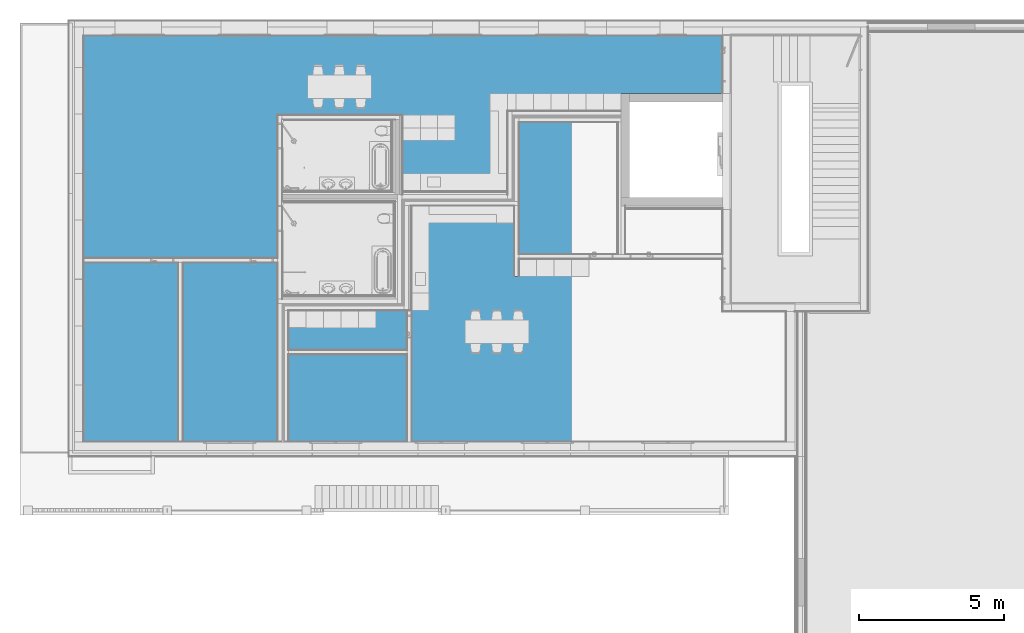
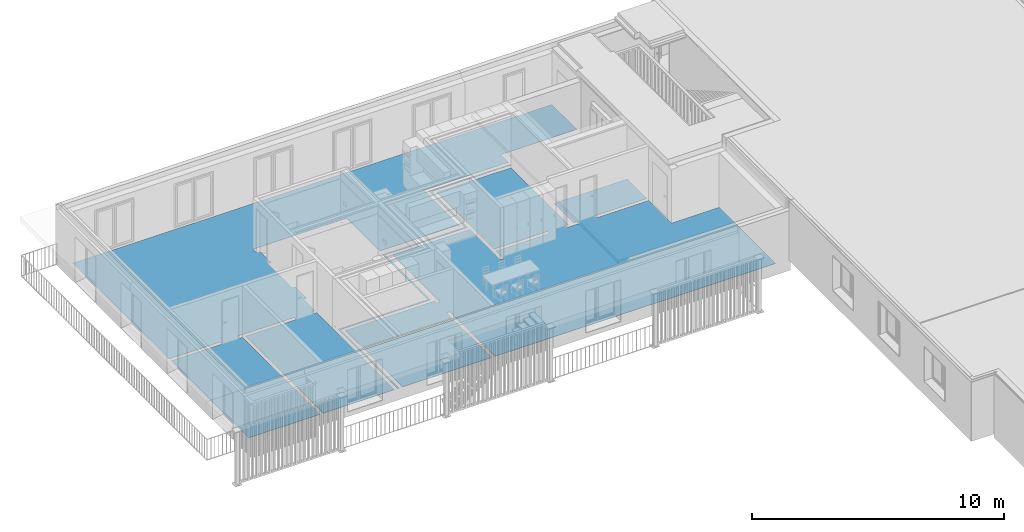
# One storey, part 9 of 34: 1 building element part, 1 element without a shape of its own.
"""IFC4 building model written with IfcOpenShell, lengths in millimetres."""

from ifc_helpers import new_model, entity, si_unit, converted_unit, derived_unit, direction, frame, origin_with_axes, place, context, subcontext, project, spatial, polygons, material, type_object, element, aggregate, save


model = new_model("IFC4")

# Units and contexts
model_context = context("Model", 3, precision=0.01, world=origin_with_axes(), true_north=direction((0.0, 1.0)))
body_context = subcontext(model_context, "Body", "Model", "MODEL_VIEW")
ifc_project = project(units=[si_unit("LENGTHUNIT", "METRE", prefix="MILLI"), si_unit("AREAUNIT", "SQUARE_METRE"), si_unit("VOLUMEUNIT", "CUBIC_METRE"), converted_unit("PLANEANGLEUNIT", "DEGREE", entity("IfcPlaneAngleMeasure", 0.0174532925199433), si_unit("PLANEANGLEUNIT", "RADIAN"), dimensions=[0, 0, 0, 0, 0, 0, 0]), converted_unit("TIMEUNIT", "Year", entity("IfcTimeMeasure", 31557600.0), si_unit("TIMEUNIT", "SECOND"), dimensions=[0, 0, 1, 0, 0, 0, 0]), si_unit("MASSUNIT", "GRAM", prefix="KILO"), si_unit("THERMODYNAMICTEMPERATUREUNIT", "DEGREE_CELSIUS"), si_unit("LUMINOUSINTENSITYUNIT", "LUMEN"), si_unit("ENERGYUNIT", "JOULE", prefix="MEGA"), derived_unit("THERMALCONDUCTANCEUNIT", [(si_unit("POWERUNIT", "WATT"), 1), (si_unit("LENGTHUNIT", "METRE"), -1), (si_unit("THERMODYNAMICTEMPERATUREUNIT", "KELVIN"), -1)]), derived_unit("SPECIFICHEATCAPACITYUNIT", [(si_unit("ENERGYUNIT", "JOULE"), 1), (si_unit("MASSUNIT", "GRAM", prefix="KILO"), -1), (si_unit("THERMODYNAMICTEMPERATUREUNIT", "KELVIN"), -1)]), derived_unit("MASSDENSITYUNIT", [(si_unit("MASSUNIT", "GRAM", prefix="KILO"), 1), (si_unit("VOLUMEUNIT", "CUBIC_METRE"), -1)])], contexts=[model_context])

# Site, building, storey
site_placement = place(None, origin_with_axes())
site = spatial("IfcSite", under=ifc_project, at=site_placement, Name="Gelände", CompositionType="ELEMENT")
building_placement = place(site_placement, origin_with_axes())
building = spatial("IfcBuilding", under=site, at=building_placement, Name="Gebäude", CompositionType="ELEMENT")
storey_placement = place(building_placement, frame((0.0, 0.0, 2900.0), z_axis=(0.0, 0.0, 1.0), x_axis=(1.0, 0.0, 0.0)))
storey = spatial("IfcBuildingStorey", under=building, at=storey_placement, Name="1.OG", CompositionType="ELEMENT", Elevation=2900.0)

# Covering, building element part
covering_type = type_object("IfcCoveringType", Name="Bodenaufbau Typ 01 150", PredefinedType="NOTDEFINED")
covering_placement = place(storey_placement, frame((-6561.004181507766, 37437.5972813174, 0.0), z_axis=(0.0, 0.0, 1.0), x_axis=(1.0, 0.0, 0.0)))
covering = element("IfcCovering", 1, at=covering_placement, inside=storey, type_object=covering_type, Name="Decke-007", PredefinedType="NOTDEFINED")
ifc_material = material(Name="Bodenbelag")
building_element_part_placement = place(covering_placement, origin_with_axes())
building_element_part = element("IfcBuildingElementPart", 2, at=building_element_part_placement, material=ifc_material, Name="Bodenbelag", PredefinedType="NOTDEFINED", context=body_context, shape_type="Tessellation", body=[
    polygons([(10621.77773059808, -5369.999999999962, 149.9999999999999), (10621.77773059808, -5359.999999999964, 149.9999999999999), (10611.77773059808, -5359.999999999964, 149.9999999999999), (10611.77773059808, -5369.999999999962, 149.9999999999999), (10621.77773059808, -5359.999999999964, 134.9999999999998), (10621.77773059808, -5369.999999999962, 134.9999999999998), (10611.77773059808, -5359.999999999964, 134.9999999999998), (10611.77773059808, -5369.999999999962, 134.9999999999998)], [[[1, 2, 3, 4]], [[5, 2, 1, 6]], [[2, 5, 7, 3]], [[3, 7, 8, 4]], [[6, 1, 4, 8]], [[5, 6, 8, 7]]], closed=True),
    polygons([(3419.999999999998, -7812.513021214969, 149.9999999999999), (3419.999999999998, -13980.00054054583, 149.9999999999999), (6683.999999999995, -13980.00054054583, 149.9999999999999), (6683.999999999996, -9223.223895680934, 149.9999999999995), (6683.999999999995, -9073.223895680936, 149.9999999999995), (6683.999999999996, -7812.513021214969, 149.9999999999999), (6533.999999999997, -7812.513021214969, 149.9999999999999), (6533.999999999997, -7662.513021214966, 149.9999999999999), (6683.999999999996, -7662.513021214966, 149.9999999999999), (6683.999999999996, -6734.99999999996, 149.9999999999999), (6843.999999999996, -6734.99999999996, 149.9999999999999), (6843.999999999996, -5844.99999999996, 149.9999999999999), (6683.999999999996, -5844.99999999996, 149.9999999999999), (6683.999999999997, -3898.533577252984, 149.9999999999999), (6843.999999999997, -3898.533577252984, 149.9999999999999), (6843.999999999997, -3008.533577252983, 149.9999999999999), (6683.999999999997, -3008.533577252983, 149.9999999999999), (6683.999999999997, -2743.533577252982, 149.9999999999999), (6833.999999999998, -2743.533577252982, 149.9999999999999), (10876.77773059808, -2743.533577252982, 149.9999999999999), (10876.77773059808, -2733.533577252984, 149.9999999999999), (10981.77773059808, -2733.533577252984, 149.9999999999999), (10981.77773059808, -5369.999999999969, 149.9999999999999), (14590.00162627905, -5369.999999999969, 149.9999999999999), (14590.00162627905, -5474.999999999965, 149.9999999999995), (14600.00162627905, -5474.999999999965, 149.9999999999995), (14600.00162627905, -2599.999999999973, 149.9999999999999), (14750.00162627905, -2599.999999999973, 149.9999999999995), (18490.00162627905, -2599.999999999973, 149.9999999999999), (18490.00162627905, -1989.999999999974, 149.9999999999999), (21980.00162627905, -1989.999999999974, 149.9999999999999), (21980.00162627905, 0.0, 149.9999999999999), (0.0, 0.0, 149.9999999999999), (0.0, -7662.51302121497, 149.9999999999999), (2309.999999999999, -7662.51302121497, 149.9999999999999), (2309.999999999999, -7812.513021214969, 149.9999999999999), (0.0, -7812.513021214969, 149.9999999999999), (0.0, -13980.00054054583, 149.9999999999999), (3269.999999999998, -13980.00054054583, 149.9999999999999), (3269.999999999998, -7812.513021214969, 149.9999999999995), (3110.0, -7812.513021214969, 149.9999999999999), (3110.0, -7662.51302121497, 149.9999999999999), (5733.999999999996, -7662.513021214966, 149.9999999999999), (5733.999999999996, -7812.513021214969, 149.9999999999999), (3419.999999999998, -7812.513021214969, 134.9999999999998), (3419.999999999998, -13980.00054054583, 135.0000000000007), (6683.999999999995, -13980.00054054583, 135.0000000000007), (6683.999999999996, -9223.223895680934, 134.9999999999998), (6683.999999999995, -9073.223895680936, 134.9999999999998), (6683.999999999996, -7812.513021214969, 134.9999999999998), (6533.999999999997, -7812.513021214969, 134.9999999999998), (6533.999999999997, -7662.513021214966, 134.9999999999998), (6683.999999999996, -7662.513021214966, 134.9999999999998), (6683.999999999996, -6734.99999999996, 134.9999999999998), (6843.999999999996, -6734.99999999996, 134.9999999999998), (6843.999999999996, -5844.99999999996, 134.9999999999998), (6683.999999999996, -5844.99999999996, 134.9999999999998), (6683.999999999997, -3898.533577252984, 134.9999999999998), (6843.999999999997, -3898.533577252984, 134.9999999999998), (6843.999999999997, -3008.533577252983, 134.9999999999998), (6683.999999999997, -3008.533577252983, 134.9999999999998), (6683.999999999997, -2743.533577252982, 134.9999999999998), (6833.999999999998, -2743.533577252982, 134.9999999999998), (10876.77773059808, -2743.533577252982, 134.9999999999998), (10876.77773059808, -2733.533577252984, 134.9999999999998), (10981.77773059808, -2733.533577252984, 134.9999999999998), (10981.77773059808, -5369.999999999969, 134.9999999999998), (14590.00162627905, -5369.999999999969, 134.9999999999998), (14590.00162627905, -5474.999999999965, 134.9999999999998), (14600.00162627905, -5474.999999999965, 134.9999999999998), (14600.00162627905, -2599.999999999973, 134.9999999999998), (14750.00162627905, -2599.999999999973, 134.9999999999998), (18490.00162627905, -2599.999999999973, 134.9999999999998), (18490.00162627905, -1989.999999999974, 134.9999999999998), (21980.00162627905, -1989.999999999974, 134.9999999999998), (21980.00162627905, 0.0, 134.9999999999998), (0.0, 0.0, 134.9999999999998), (0.0, -7662.51302121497, 134.9999999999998), (2309.999999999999, -7662.51302121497, 134.9999999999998), (2309.999999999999, -7812.513021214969, 134.9999999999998), (0.0, -7812.513021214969, 134.9999999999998), (0.0, -13980.00054054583, 134.9999999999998), (3269.999999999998, -13980.00054054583, 135.0000000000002), (3269.999999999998, -7812.513021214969, 134.9999999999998), (3110.0, -7812.513021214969, 134.9999999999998), (3110.0, -7662.51302121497, 134.9999999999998), (5733.999999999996, -7662.513021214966, 134.9999999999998), (5733.999999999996, -7812.513021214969, 134.9999999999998)], [[[1, 2, 3, 4, 5, 6, 7, 8, 9, 10, 11, 12, 13, 14, 15, 16, 17, 18, 19, 20, 21, 22, 23, 24, 25, 26, 27, 28, 29, 30, 31, 32, 33, 34, 35, 36, 37, 38, 39, 40, 41, 42, 43, 44]], [[2, 1, 45, 46]], [[2, 46, 47, 3]], [[48, 4, 3, 47]], [[4, 48, 49, 5]], [[5, 49, 50, 6]], [[6, 50, 51, 7]], [[8, 7, 51, 52]], [[53, 9, 8, 52]], [[10, 9, 53, 54]], [[11, 10, 54, 55]], [[11, 55, 56, 12]], [[57, 13, 12, 56]], [[14, 13, 57, 58]], [[15, 14, 58, 59]], [[15, 59, 60, 16]], [[61, 17, 16, 60]], [[18, 17, 61, 62]], [[63, 19, 18, 62]], [[64, 20, 19, 63]], [[21, 20, 64, 65]], [[66, 22, 21, 65]], [[23, 22, 66, 67]], [[23, 67, 68, 24]], [[24, 68, 69, 25]], [[25, 69, 70, 26]], [[26, 70, 71, 27]], [[72, 28, 27, 71]], [[28, 72, 73, 29]], [[29, 73, 74, 30]], [[74, 75, 31, 30]], [[75, 76, 32, 31]], [[76, 77, 33, 32]], [[78, 34, 33, 77]], [[35, 34, 78, 79]], [[36, 35, 79, 80]], [[37, 36, 80, 81]], [[37, 81, 82, 38]], [[83, 39, 38, 82]], [[84, 40, 39, 83]], [[40, 84, 85, 41]], [[42, 41, 85, 86]], [[43, 42, 86, 87]], [[44, 43, 87, 88]], [[45, 1, 44, 88]], [[46, 45, 88, 87, 86, 85, 84, 83, 82, 81, 80, 79, 78, 77, 76, 75, 74, 73, 72, 71, 70, 69, 68, 67, 66, 65, 64, 63, 62, 61, 60, 59, 58, 57, 56, 55, 54, 53, 52, 51, 50, 49, 48, 47]]], closed=True),
    polygons([(10726.77773059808, -2903.533577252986, 149.9999999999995), (10726.77773059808, -2893.533577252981, 149.9999999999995), (10611.77773059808, -2893.533577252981, 149.9999999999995), (10611.77773059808, -2903.533577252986, 149.9999999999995), (10726.77773059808, -2903.533577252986, 134.9999999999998), (10726.77773059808, -2893.533577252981, 134.9999999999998), (10611.77773059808, -2893.533577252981, 134.9999999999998), (10611.77773059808, -2903.533577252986, 134.9999999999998)], [[[1, 2, 3, 4]], [[1, 5, 6, 2]], [[2, 6, 7, 3]], [[8, 4, 3, 7]], [[5, 1, 4, 8]], [[5, 8, 7, 6]]], closed=True),
    polygons([(6843.999999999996, -9073.223895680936, 149.9999999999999), (6843.999999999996, -8958.223895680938, 149.9999999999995), (6833.999999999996, -8958.223895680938, 149.9999999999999), (6833.999999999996, -9073.223895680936, 149.9999999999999), (6843.999999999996, -9073.223895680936, 134.9999999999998), (6843.999999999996, -8958.223895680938, 134.9999999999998), (6833.999999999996, -8958.223895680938, 134.9999999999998), (6833.999999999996, -9073.223895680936, 134.9999999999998)], [[[1, 2, 3, 4]], [[2, 1, 5, 6]], [[2, 6, 7, 3]], [[8, 4, 3, 7]], [[5, 1, 4, 8]], [[5, 8, 7, 6]]], closed=True),
    polygons([(6903.999981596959, -13980.00054054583, 149.9999999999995), (6903.999981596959, -9453.223895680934, 149.9999999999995), (6903.999981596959, -9303.223895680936, 149.9999999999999), (11037.0, -9303.223895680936, 149.9999999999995), (11037.0, -5854.999999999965, 149.9999999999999), (11037.0, -5704.999999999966, 149.9999999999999), (14830.00162627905, -5704.999999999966, 149.9999999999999), (14830.00162627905, -2829.999999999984, 149.9999999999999), (14980.00162627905, -2829.999999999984, 149.9999999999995), (18490.00162627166, -2829.999999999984, 149.9999999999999), (18490.00162627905, -2749.999999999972, 149.9999999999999), (14750.00162627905, -2749.999999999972, 149.9999999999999), (14750.00162627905, -5624.999999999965, 149.9999999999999), (14600.00162627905, -5624.999999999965, 149.9999999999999), (10957.0, -5624.999999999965, 149.9999999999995), (10957.0, -9223.223895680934, 149.9999999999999), (10807.0, -9223.223895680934, 149.9999999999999), (6833.999999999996, -9223.223895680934, 149.9999999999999), (6833.999999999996, -13980.00054054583, 149.9999999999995), (6903.999981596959, -9453.223895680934, 134.9999999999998), (6903.999981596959, -13980.00054054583, 135.0000000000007), (6903.999981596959, -9303.223895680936, 134.9999999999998), (11037.0, -9303.223895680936, 134.9999999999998), (11037.0, -5854.999999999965, 134.9999999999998), (11037.0, -5704.999999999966, 134.9999999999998), (14830.00162627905, -5704.999999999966, 135.0000000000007), (14830.00162627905, -2829.999999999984, 134.9999999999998), (14980.00162627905, -2829.999999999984, 134.9999999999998), (18490.0016262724, -2829.999999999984, 134.9999999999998), (18490.00162627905, -2749.999999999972, 134.9999999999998), (14750.00162627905, -2749.999999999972, 134.9999999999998), (14750.00162627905, -5624.999999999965, 134.9999999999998), (14600.00162627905, -5624.999999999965, 134.9999999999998), (10957.0, -5624.999999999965, 134.9999999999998), (10957.0, -9223.223895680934, 134.9999999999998), (10807.0, -9223.223895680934, 134.9999999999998), (6833.999999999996, -9223.223895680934, 134.9999999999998), (6833.999999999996, -13980.00054054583, 134.9999999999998)], [[[1, 2, 3, 4, 5, 6, 7, 8, 9, 10, 11, 12, 13, 14, 15, 16, 17, 18, 19]], [[20, 2, 1, 21]], [[2, 20, 22, 3]], [[23, 4, 3, 22]], [[4, 23, 24, 5]], [[5, 24, 25, 6]], [[26, 7, 6, 25]], [[8, 7, 26, 27]], [[28, 9, 8, 27]], [[29, 10, 9, 28]], [[10, 29, 30, 11]], [[31, 12, 11, 30]], [[13, 12, 31, 32]], [[33, 14, 13, 32]], [[15, 14, 33, 34]], [[15, 34, 35, 16]], [[36, 17, 16, 35]], [[37, 18, 17, 36]], [[19, 18, 37, 38]], [[21, 1, 19, 38]], [[20, 21, 38, 37, 36, 35, 34, 33, 32, 31, 30, 29, 28, 27, 26, 25, 24, 23, 22]]], closed=True),
    polygons([(11142.0, -10970.00054054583, 134.9999999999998), (11142.0, -10970.00054054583, 149.9999999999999), (11142.0, -13980.00054054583, 149.9999999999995), (11142.0, -13980.00054054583, 134.9999999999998), (7053.999981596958, -10970.00054054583, 149.9999999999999), (7053.999981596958, -10970.00054054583, 134.9999999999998), (7053.999981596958, -13980.00054054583, 149.9999999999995), (7053.999981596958, -13980.00054054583, 134.9999999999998)], [[[1, 2, 3, 4]], [[5, 2, 1, 6]], [[2, 5, 7, 3]], [[4, 3, 7, 8]], [[6, 1, 4, 8]], [[5, 6, 8, 7]]], closed=True),
    polygons([(7053.999981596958, -10820.00054054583, 149.9999999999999), (11142.0, -10820.00054054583, 149.9999999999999), (11142.0, -10413.22389568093, 149.9999999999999), (11292.0, -10413.22389568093, 149.9999999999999), (11292.0, -13980.00054054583, 149.9999999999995), (24181.00162627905, -13980.00054054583, 149.9999999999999), (24181.00162627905, -9489.999999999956, 149.9999999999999), (21990.00162627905, -9489.999999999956, 149.9999999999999), (21990.00162627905, -7680.000001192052, 149.9999999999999), (19600.00162627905, -7680.000000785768, 149.9999999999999), (19600.00162627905, -7529.999999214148, 149.9999999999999), (21990.00162627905, -7529.999998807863, 149.9999999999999), (21990.00162627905, -5969.99999999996, 150.0000000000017), (18640.00162627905, -5969.99999999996, 149.9999999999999), (18640.00162627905, -7529.999999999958, 149.9999999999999), (18800.00162627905, -7529.999999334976, 149.9999999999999), (18800.00162627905, -7680.00000066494, 149.9999999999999), (18225.00162627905, -7680.000000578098, 149.9999999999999), (18225.00162627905, -7529.999999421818, 149.9999999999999), (18385.00162627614, -7529.999999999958, 150.0000000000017), (18385.00162622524, -2979.999999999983, 149.9999999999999), (14980.00162627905, -2979.999999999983, 149.9999999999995), (14980.00162627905, -5704.999999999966, 149.9999999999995), (14980.00162627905, -5854.999999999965, 149.9999999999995), (14980.00162627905, -7529.999999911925, 149.9999999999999), (17425.00162627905, -7529.999999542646, 149.9999999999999), (17425.00162627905, -7680.000000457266, 149.9999999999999), (14980.00162627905, -7680.000000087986, 149.9999999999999), (14980.00162627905, -8287.999999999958, 149.9999999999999), (14830.00162627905, -8287.999999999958, 149.9999999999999), (14830.00162627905, -5854.999999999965, 149.9999999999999), (11292.0, -5854.999999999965, 149.9999999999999), (11292.0, -9613.223895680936, 149.9999999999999), (11142.0, -9613.223895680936, 149.9999999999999), (11142.0, -9463.223895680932, 149.9999999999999), (11187.0, -9463.223895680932, 149.9999999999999), (11187.0, -9453.223895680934, 149.9999999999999), (11037.0, -9453.223895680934, 149.9999999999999), (7053.999981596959, -9453.223895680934, 149.9999999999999), (11142.0, -10820.00054054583, 134.9999999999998), (7053.999981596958, -10820.00054054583, 134.9999999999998), (11142.0, -10413.22389568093, 134.9999999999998), (11292.0, -10413.22389568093, 134.9999999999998), (11292.0, -13980.00054054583, 134.9999999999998), (24181.00162627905, -13980.00054054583, 134.9999999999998), (24181.00162627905, -9489.999999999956, 134.9999999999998), (21990.00162627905, -9489.999999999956, 134.9999999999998), (21990.00162627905, -7680.00000076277, 134.9999999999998), (19600.00162627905, -7680.000000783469, 134.9999999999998), (19600.00162627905, -7529.999999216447, 134.9999999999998), (21990.00162627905, -7529.999998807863, 134.9999999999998), (21990.00162627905, -5969.99999999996, 134.9999999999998), (18640.00162627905, -5969.99999999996, 134.9999999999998), (18640.00162627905, -7529.999999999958, 134.9999999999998), (18800.00162627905, -7529.99999933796, 134.9999999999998), (18800.00162627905, -7680.000000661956, 134.9999999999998), (18225.00162627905, -7680.000000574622, 134.9999999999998), (18225.00162627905, -7529.999999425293, 134.9999999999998), (18385.00162627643, -7529.999999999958, 134.9999999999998), (18385.00162623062, -2979.999999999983, 134.9999999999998), (14980.00162627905, -2979.999999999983, 134.9999999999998), (14980.00162627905, -5704.999999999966, 134.9999999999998), (14980.00162627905, -5854.999999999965, 134.9999999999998), (14980.00162627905, -7529.999999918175, 134.9999999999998), (17425.00162627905, -7529.999999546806, 134.9999999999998), (17425.00162627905, -7680.000000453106, 134.9999999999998), (14980.00162627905, -7680.000000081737, 134.9999999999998), (14980.00162627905, -8287.999999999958, 134.9999999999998), (14830.00162627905, -8287.999999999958, 134.9999999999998), (14830.00162627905, -5854.999999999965, 134.9999999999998), (11292.0, -5854.999999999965, 135.0000000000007), (11292.0, -9613.223895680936, 134.9999999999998), (11142.0, -9613.223895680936, 134.9999999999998), (11142.0, -9463.223895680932, 134.9999999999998), (11187.0, -9463.223895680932, 134.9999999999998), (11187.0, -9453.223895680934, 134.9999999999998), (11037.0, -9453.223895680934, 134.9999999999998), (7053.999981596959, -9453.223895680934, 134.9999999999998)], [[[1, 2, 3, 4, 5, 6, 7, 8, 9, 10, 11, 12, 13, 14, 15, 16, 17, 18, 19, 20, 21, 22, 23, 24, 25, 26, 27, 28, 29, 30, 31, 32, 33, 34, 35, 36, 37, 38, 39]], [[40, 2, 1, 41]], [[2, 40, 42, 3]], [[4, 3, 42, 43]], [[5, 4, 43, 44]], [[5, 44, 45, 6]], [[45, 46, 7, 6]], [[46, 47, 8, 7]], [[48, 9, 8, 47]], [[10, 9, 48, 49]], [[11, 10, 49, 50]], [[51, 12, 11, 50]], [[52, 13, 12, 51]], [[14, 13, 52, 53]], [[14, 53, 54, 15]], [[15, 54, 55, 16]], [[17, 16, 55, 56]], [[18, 17, 56, 57]], [[19, 18, 57, 58]], [[59, 20, 19, 58]], [[60, 21, 20, 59]], [[22, 21, 60, 61]], [[22, 61, 62, 23]], [[23, 62, 63, 24]], [[24, 63, 64, 25]], [[25, 64, 65, 26]], [[27, 26, 65, 66]], [[67, 28, 27, 66]], [[29, 28, 67, 68]], [[30, 29, 68, 69]], [[70, 31, 30, 69]], [[71, 32, 31, 70]], [[71, 72, 33, 32]], [[34, 33, 72, 73]], [[35, 34, 73, 74]], [[75, 36, 35, 74]], [[36, 75, 76, 37]], [[77, 38, 37, 76]], [[78, 39, 38, 77]], [[41, 1, 39, 78]], [[40, 41, 78, 77, 76, 75, 74, 73, 72, 71, 70, 69, 68, 67, 66, 65, 64, 63, 62, 61, 60, 59, 58, 57, 56, 55, 54, 53, 52, 51, 50, 49, 48, 47, 46, 45, 44, 43, 42]]], closed=True),
])
aggregate(covering, [building_element_part])

save(model, "model.ifc")
